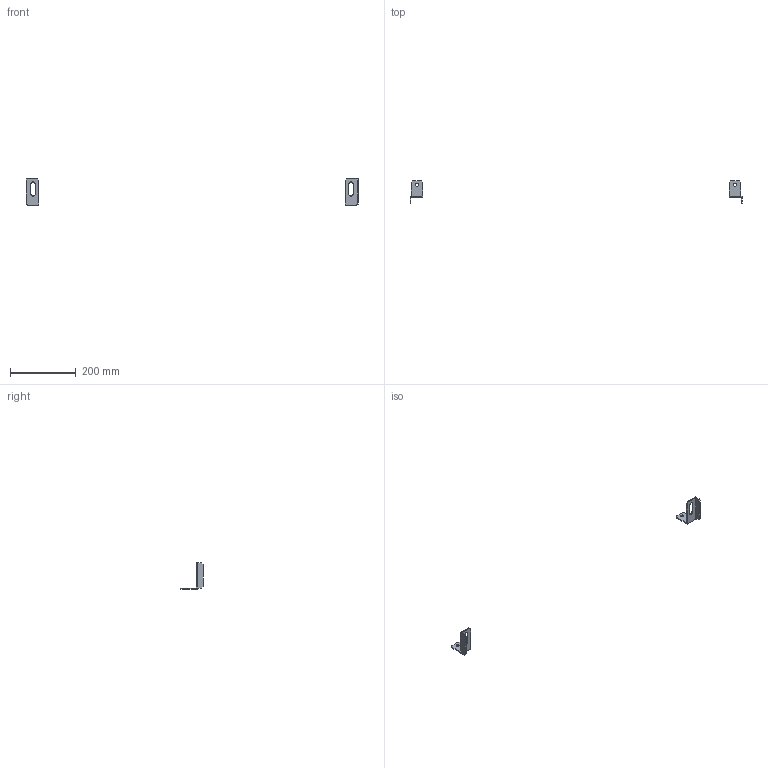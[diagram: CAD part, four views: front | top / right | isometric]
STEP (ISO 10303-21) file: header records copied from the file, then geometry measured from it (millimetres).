
FILE_DESCRIPTION(('Open CASCADE Model'),'2;1');
FILE_NAME('Open CASCADE Shape Model','2025-03-31T08:49:39',('Author'),( 'Open CASCADE'),'Open CASCADE STEP processor 7.8','Open CASCADE 7.8' ,'Unknown');
FILE_SCHEMA(('AUTOMOTIVE_DESIGN { 1 0 10303 214 1 1 1 1 }'));
Length unit declared in the file: millimetre
Products named in the file (3): Compound1; Solid1; Solid2
Assembly tree (2 placements, depth 2):
  Compound1
    Solid1
    Solid2
Bounding box: 1006.6 x 67 x 80 mm (x, y, z)
Volume: 32524.7 mm3; surface area: 24566 mm2
Topology: 2 solids, 2 shells, 56 faces, 156 edges, 104 vertices
Faces by surface type: plane 50, cylinder 6
Full cylindrical faces by diameter (mm): 9 x2
Entity records: 1830 total; most frequent: CARTESIAN_POINT 321, ORIENTED_EDGE 312, DIRECTION 284, EDGE_CURVE 156, LINE 142, VECTOR 142, VERTEX_POINT 104, AXIS2_PLACEMENT_3D 71
